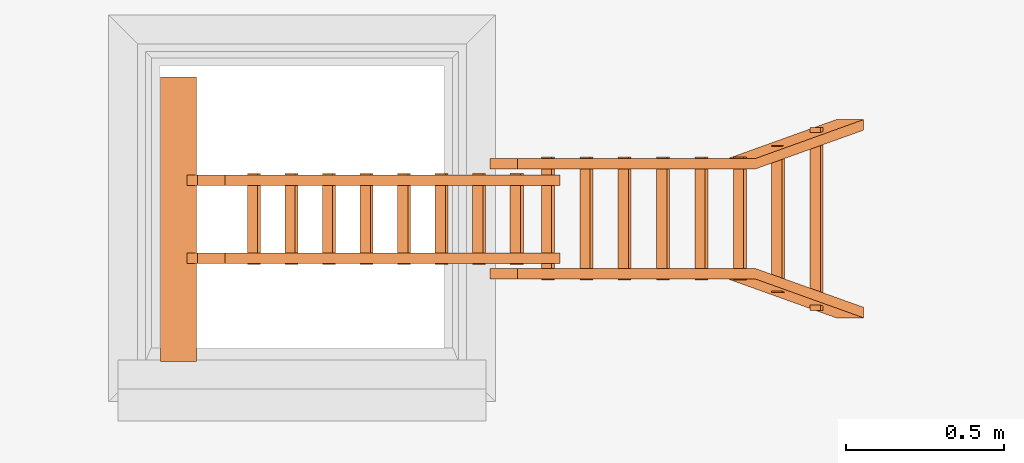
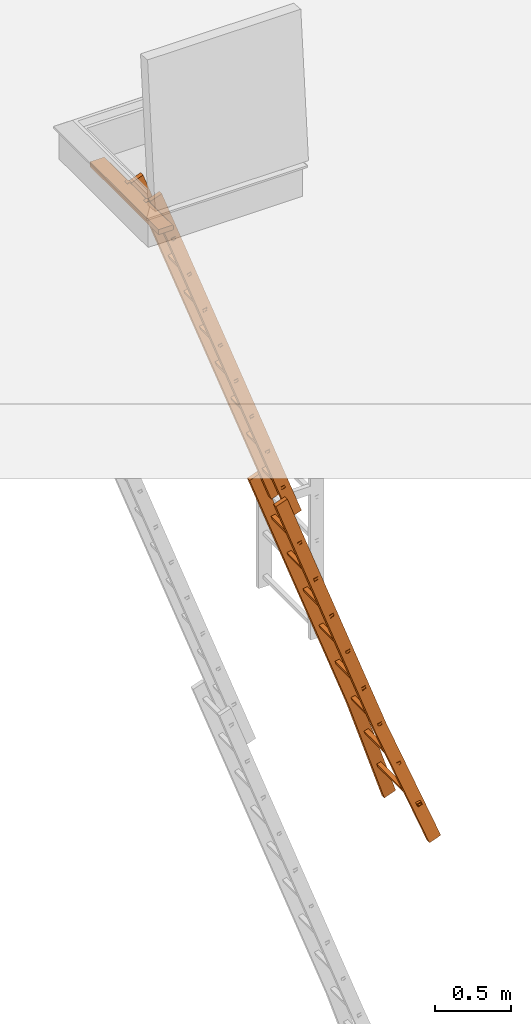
# One storey, part 10 of 28: 1 proxy, 2 openings.
"""IFC2X3 building model written with IfcOpenShell, lengths in millimetres."""

from ifc_helpers import new_model, entity, si_unit, converted_unit, derived_unit, direction, frame, frame_2d, origin, origin_2d_with_axis, place, context, subcontext, project, spatial, polyline, circle_curve, parameter, trimmed, segment, composite_curve, rectangle, outline, extrude, source, transform, mapped, type_object, type_shapes, element, save


model = new_model("IFC2X3")

# Units and contexts
model_context = context("Model", 3, precision=0.01, world=origin(), true_north=direction((6.12303176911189e-17, 1.0)))
body_context = subcontext(model_context, "Body", "Model", "MODEL_VIEW")
ifc_project = project(units=[si_unit("LENGTHUNIT", "METRE", prefix="MILLI"), si_unit("AREAUNIT", "SQUARE_METRE"), si_unit("VOLUMEUNIT", "CUBIC_METRE"), converted_unit("PLANEANGLEUNIT", "DEGREE", entity("IfcRatioMeasure", 0.0174532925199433), si_unit("PLANEANGLEUNIT", "RADIAN"), dimensions=[0, 0, 0, 0, 0, 0, 0]), si_unit("MASSUNIT", "GRAM", prefix="KILO"), derived_unit("MASSDENSITYUNIT", [(si_unit("MASSUNIT", "GRAM", prefix="KILO"), 1), (si_unit("LENGTHUNIT", "METRE"), -3)]), si_unit("TIMEUNIT", "SECOND"), si_unit("FREQUENCYUNIT", "HERTZ"), si_unit("THERMODYNAMICTEMPERATUREUNIT", "DEGREE_CELSIUS"), derived_unit("THERMALTRANSMITTANCEUNIT", [(si_unit("MASSUNIT", "GRAM", prefix="KILO"), 1), (si_unit("THERMODYNAMICTEMPERATUREUNIT", "KELVIN"), -1), (si_unit("TIMEUNIT", "SECOND"), -3)]), derived_unit("VOLUMETRICFLOWRATEUNIT", [(si_unit("LENGTHUNIT", "METRE"), 3), (si_unit("TIMEUNIT", "SECOND"), -1)]), si_unit("ELECTRICCURRENTUNIT", "AMPERE"), si_unit("ELECTRICVOLTAGEUNIT", "VOLT"), si_unit("POWERUNIT", "WATT"), si_unit("FORCEUNIT", "NEWTON", prefix="KILO"), si_unit("ILLUMINANCEUNIT", "LUX"), si_unit("LUMINOUSFLUXUNIT", "LUMEN"), si_unit("LUMINOUSINTENSITYUNIT", "CANDELA"), derived_unit("USERDEFINED", [(si_unit("MASSUNIT", "GRAM", prefix="KILO"), -1), (si_unit("LENGTHUNIT", "METRE"), -2), (si_unit("TIMEUNIT", "SECOND"), 3), (si_unit("LUMINOUSFLUXUNIT", "LUMEN"), 1)]), derived_unit("LINEARVELOCITYUNIT", [(si_unit("LENGTHUNIT", "METRE"), 1), (si_unit("TIMEUNIT", "SECOND"), -1)]), si_unit("PRESSUREUNIT", "PASCAL"), derived_unit("USERDEFINED", [(si_unit("LENGTHUNIT", "METRE"), -2), (si_unit("MASSUNIT", "GRAM", prefix="KILO"), 1), (si_unit("TIMEUNIT", "SECOND"), -2)])], contexts=[model_context])

# Site, building, storey
site_placement = place(None, origin())
site = spatial("IfcSite", under=ifc_project, at=site_placement, Name="Default", CompositionType="ELEMENT")
building_placement = place(site_placement, origin())
building = spatial("IfcBuilding", under=site, at=building_placement, CompositionType="ELEMENT")
storey_placement = place(building_placement, frame((0.0, 0.0, 4000.0)))
storey = spatial("IfcBuildingStorey", under=building, at=storey_placement, Name="Level 2", CompositionType="ELEMENT", Elevation=4000.0)

# Proxy, openings
building_element_proxy_type = type_object("IfcBuildingElementProxyType", Name="9_Topaccess_Trap_2delige1", PredefinedType="NOTDEFINED")
shared_shape = source(origin(), body_context, "Body", "SweptSolid", [
    extrude(outline(composite_curve([segment(polyline([(-20.0, -72.7589570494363), (20.0, -72.7589570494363)]), True, "CONTINUOUS"), segment(polyline([(20.0, -72.7589570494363), (20.0, 31.9980683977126)]), True, "CONTINUOUS"), segment(trimmed(circle_curve(frame_2d((10.2609571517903, 30.9957536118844), x_axis=(0.939692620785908, -0.342020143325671)), 9.79048469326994), [parameter(25.876031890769)], [parameter(105.876031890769)], True, "PARAMETER"), True, "CONTINUOUS"), segment(polyline([(10.9650368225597, 40.760888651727), (-10.9650368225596, 40.760888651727)]), True, "CONTINUOUS"), segment(trimmed(circle_curve(frame_2d((-10.2609571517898, 30.9957536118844), x_axis=(0.939692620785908, -0.342020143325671)), 9.79048469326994), [parameter(114.123968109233)], [parameter(194.123968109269)], True, "PARAMETER"), True, "CONTINUOUS"), segment(polyline([(-20.0, 31.9980683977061), (-20.0, -72.7589570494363)]), True, "CONTINUOUS")], self_intersect=False)), frame((-484.291584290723, -2.37763803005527, 9.64187826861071), z_axis=(1.0, 0.0, 0.0), x_axis=(0.0, 0.939692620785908, 0.34202014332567)), (0.0, 0.0, 1.0), 900.0),
    extrude(outline(composite_curve([segment(polyline([(-21.0941155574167, -85.4663572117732), (-18.0941155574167, -85.4663572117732)]), True, "CONTINUOUS"), segment(polyline([(-18.0941155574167, -85.4663572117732), (-18.0941155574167, 34.533772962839)]), True, "CONTINUOUS"), segment(trimmed(circle_curve(frame_2d((0.281515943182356, 34.5337729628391), x_axis=(0.0, 1.0)), 18.3756315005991), [parameter(284.219953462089)], [parameter(90.0000000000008)], True, "PARAMETER"), False, "CONTINUOUS"), segment(polyline([(18.0941155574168, 39.047654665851), (18.0941155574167, 11.7050015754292)]), True, "CONTINUOUS"), segment(polyline([(18.0941155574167, 11.7050015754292), (21.0941155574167, 11.7050015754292)]), True, "CONTINUOUS"), segment(polyline([(21.0941155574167, 11.7050015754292), (21.0941155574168, 39.4075106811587)]), True, "CONTINUOUS"), segment(trimmed(circle_curve(frame_2d((0.281515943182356, 34.5337729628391), x_axis=(0.0, 1.0)), 21.3756315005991), [parameter(283.179609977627)], [parameter(89.9999999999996)], True, "PARAMETER"), True, "CONTINUOUS"), segment(polyline([(-21.0941155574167, 34.5337729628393), (-21.0941155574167, -85.4663572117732)]), True, "CONTINUOUS")], self_intersect=False)), frame((72.0, -40.2373925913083, 36.9030783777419), z_axis=(1.0, 0.0, 0.0), x_axis=(0.0, 0.0, -1.0)), (0.0, 0.0, 1.0), 33.0),
    extrude(outline(composite_curve([segment(polyline([(-34.5337729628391, -21.0941155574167), (85.4663572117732, -21.0941155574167)]), True, "CONTINUOUS"), segment(polyline([(85.4663572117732, -21.0941155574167), (85.4663572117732, -18.0941155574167)]), True, "CONTINUOUS"), segment(polyline([(85.4663572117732, -18.0941155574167), (-34.5337729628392, -18.0941155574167)]), True, "CONTINUOUS"), segment(trimmed(circle_curve(frame_2d((-34.5337729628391, 0.281515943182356), x_axis=(-1.0, 0.0)), 18.3756315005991), [parameter(284.219953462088)], [parameter(90.0)], True, "PARAMETER"), False, "CONTINUOUS"), segment(polyline([(-39.047654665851, 18.0941155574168), (-11.7050015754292, 18.0941155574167)]), True, "CONTINUOUS"), segment(polyline([(-11.7050015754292, 18.0941155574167), (-11.7050015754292, 21.0941155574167)]), True, "CONTINUOUS"), segment(polyline([(-11.7050015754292, 21.0941155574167), (-39.407510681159, 21.0941155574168)]), True, "CONTINUOUS"), segment(trimmed(circle_curve(frame_2d((-34.5337729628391, 0.281515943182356), x_axis=(-1.0, 0.0)), 21.3756315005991), [parameter(283.179609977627)], [parameter(89.9999999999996)], True, "PARAMETER"), True, "CONTINUOUS")], self_intersect=False)), frame((-175.0, -40.2373925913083, 36.9030783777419), z_axis=(1.0, 0.0, 0.0), x_axis=(0.0, -1.0, 0.0)), (0.0, 0.0, 1.0), 33.0000000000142),
    extrude(rectangle(XDim=33.0000000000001, YDim=3099.99999999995, at=frame_2d((-3.30000000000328, 283.551511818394), x_axis=(1.0, 0.0))), frame((85.2, -1266.44848818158, 58.0), z_axis=(0.0, 0.0, 1.0), x_axis=(-1.0, 0.0, 0.0)), (0.0, 0.0, 1.0), 92.0),
    extrude(rectangle(XDim=3099.99999999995, YDim=33.0000000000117, at=frame_2d((-283.551511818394, 3.30000000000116), x_axis=(1.0, 0.0))), frame((-155.19999999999, -1266.44848818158, 58.0), z_axis=(0.0, 0.0, 1.0), x_axis=(0.0, 1.0, 0.0)), (0.0, 0.0, 1.0), 92.0),
    extrude(outline(polyline([(-11.5216143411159, -16.5000000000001), (13.8405381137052, -16.5000000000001), (13.8405381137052, 16.5), (-16.1594618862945, 16.5000000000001), (-11.5216143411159, -16.5000000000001)]), holes=[polyline([(8.84053811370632, -11.5000000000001), (-7.1751806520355, -11.5000000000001), (-10.4076198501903, 11.5000000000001), (8.84053811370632, 11.5), (8.84053811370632, -11.5000000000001)])]), frame((-227.077291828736, -3293.01909964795, 39.0843884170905), z_axis=(1.0, 0.0, 0.0), x_axis=(0.0, -1.0, 0.0)), (0.0, 0.0, 1.0), 389.077291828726),
    extrude(outline(polyline([(-11.5216143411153, -16.5000000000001), (13.8405381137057, -16.5000000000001), (13.8405381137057, 16.5), (-16.159461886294, 16.5000000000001), (-11.5216143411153, -16.5000000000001)]), holes=[polyline([(8.84053811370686, -11.5000000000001), (-7.17518065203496, -11.5000000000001), (-10.4076198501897, 11.5000000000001), (8.84053811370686, 11.5), (8.84053811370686, -11.5000000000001)])]), frame((-227.077291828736, -3648.01909964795, 39.0843884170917), z_axis=(1.0, 0.0, 0.0), x_axis=(0.0, -1.0, 0.0)), (0.0, 0.0, 1.0), 389.077291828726),
    extrude(outline(polyline([(-11.5216143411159, -16.5000000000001), (13.8405381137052, -16.5000000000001), (13.8405381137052, 16.5), (-16.1594618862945, 16.5000000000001), (-11.5216143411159, -16.5000000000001)]), holes=[polyline([(8.84053811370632, -11.5000000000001), (-7.1751806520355, -11.5000000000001), (-10.4076198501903, 11.5000000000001), (8.84053811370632, 11.5), (8.84053811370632, -11.5000000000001)])]), frame((-227.077291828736, -4003.01909964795, 39.0843884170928), z_axis=(1.0, 0.0, 0.0), x_axis=(0.0, -1.0, 0.0)), (0.0, 0.0, 1.0), 389.077291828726),
    extrude(outline(polyline([(-11.5216143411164, -16.5000000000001), (13.8405381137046, -16.5000000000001), (13.8405381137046, 16.5), (-16.159461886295, 16.5000000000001), (-11.5216143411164, -16.5000000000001)]), holes=[polyline([(8.84053811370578, -11.5000000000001), (-7.17518065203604, -11.5000000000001), (-10.4076198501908, 11.5000000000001), (8.84053811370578, 11.5), (8.84053811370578, -11.5000000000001)])]), frame((-227.077291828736, -4358.01909964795, 39.0843884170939), z_axis=(1.0, 0.0, 0.0), x_axis=(0.0, -1.0, 0.0)), (0.0, 0.0, 1.0), 389.077291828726),
    extrude(outline(polyline([(-11.5216143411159, -16.5000000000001), (13.8405381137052, -16.5000000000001), (13.8405381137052, 16.5), (-16.1594618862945, 16.5000000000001), (-11.5216143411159, -16.5000000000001)]), holes=[polyline([(8.84053811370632, -11.5000000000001), (-7.1751806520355, -11.5000000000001), (-10.4076198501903, 11.5000000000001), (8.84053811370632, 11.5), (8.84053811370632, -11.5000000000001)])]), frame((-227.077291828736, -4713.01909964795, 39.0843884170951), z_axis=(1.0, 0.0, 0.0), x_axis=(0.0, -1.0, 0.0)), (0.0, 0.0, 1.0), 389.077291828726),
    extrude(outline(polyline([(-11.5216143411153, -16.5000000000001), (13.8405381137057, -16.5000000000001), (13.8405381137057, 16.5), (-16.159461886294, 16.5000000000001), (-11.5216143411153, -16.5000000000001)]), holes=[polyline([(8.84053811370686, -11.5000000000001), (-7.17518065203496, -11.5000000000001), (-10.4076198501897, 11.5000000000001), (8.84053811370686, 11.5), (8.84053811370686, -11.5000000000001)])]), frame((-227.077291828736, -5068.01909964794, 39.0843884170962), z_axis=(1.0, 0.0, 0.0), x_axis=(0.0, -1.0, 0.0)), (0.0, 0.0, 1.0), 389.077291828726),
    extrude(outline(polyline([(-11.5216143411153, -16.5000000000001), (13.8405381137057, -16.5000000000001), (13.8405381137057, 16.5), (-16.159461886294, 16.5000000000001), (-11.5216143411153, -16.5000000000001)]), holes=[polyline([(8.84053811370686, -11.5000000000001), (-7.17518065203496, -11.5000000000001), (-10.4076198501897, 11.5000000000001), (8.84053811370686, 11.5), (8.84053811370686, -11.5000000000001)])]), frame((-266.000121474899, -5423.01909964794, 39.0843884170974), z_axis=(1.0, 0.0, 0.0), x_axis=(0.0, -1.0, 0.0)), (0.0, 0.0, 1.0), 465.000121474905),
    extrude(outline(polyline([(-11.5216143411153, -16.5000000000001), (13.8405381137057, -16.5000000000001), (13.8405381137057, 16.5), (-16.159461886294, 16.5000000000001), (-11.5216143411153, -16.5000000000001)]), holes=[polyline([(8.84053811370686, -11.5000000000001), (-7.17518065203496, -11.5000000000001), (-10.4076198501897, 11.5000000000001), (8.84053811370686, 11.5), (8.84053811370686, -11.5000000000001)])]), frame((-323.951711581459, -5778.01909964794, 39.0843884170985), z_axis=(1.0, 0.0, 0.0), x_axis=(0.0, -1.0, 0.0)), (0.0, 0.0, 1.0), 580.345535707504),
    extrude(outline(polyline([(388.026880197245, -105.667736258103), (1398.54073073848, -105.667736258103), (1402.59262124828, -72.6677362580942), (392.048568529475, -72.9137132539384), (-1788.59355619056, 194.835472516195), (-1792.61524452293, 162.081449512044), (388.026880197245, -105.667736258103)])), frame((181.59152386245, -4696.74475844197, -12.0), z_axis=(0.0, 0.0, 1.0), x_axis=(0.121869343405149, -0.992546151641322, 0.0)), (0.0, 0.0, 1.0), 92.0),
    extrude(outline(polyline([(390.379133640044, 72.7087324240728), (1402.92650822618, 72.7087324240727), (1398.87461771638, 105.708732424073), (388.360767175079, 105.708732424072), (-1792.28135754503, -162.040453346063), (-1788.25966921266, -194.794476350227), (390.379133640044, 72.7087324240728)])), frame((-247.591523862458, -4696.40836403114, -12.0), z_axis=(0.0, 0.0, 1.0), x_axis=(-0.121869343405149, -0.992546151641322, 0.0)), (0.0, 0.0, 1.0), 92.0),
    extrude(outline(polyline([(-11.5216143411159, -16.5), (13.8405381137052, -16.5), (13.8405381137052, 16.5), (-16.1594618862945, 16.5000000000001), (-11.5216143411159, -16.5)]), holes=[polyline([(8.84053811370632, -11.5), (-7.17518065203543, -11.5), (-10.4076198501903, 11.5), (8.84053811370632, 11.5), (8.84053811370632, -11.5)])]), frame((-178.583168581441, -401.863211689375, 101.084388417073), z_axis=(1.0, 0.0, 0.0), x_axis=(0.0, -1.0, 0.0)), (0.0, 0.0, 1.0), 288.583168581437),
    extrude(outline(polyline([(-11.5216143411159, -16.5), (13.8405381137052, -16.5), (13.8405381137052, 16.5), (-16.1594618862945, 16.5000000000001), (-11.5216143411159, -16.5)]), holes=[polyline([(8.84053811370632, -11.5), (-7.1751806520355, -11.5), (-10.4076198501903, 11.5000000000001), (8.84053811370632, 11.5), (8.84053811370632, -11.5)])]), frame((-178.583168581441, -749.363211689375, 101.084388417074), z_axis=(1.0, 0.0, 0.0), x_axis=(0.0, -1.0, 0.0)), (0.0, 0.0, 1.0), 288.583168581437),
    extrude(outline(polyline([(-11.5216143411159, -16.5), (13.8405381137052, -16.5), (13.8405381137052, 16.5), (-16.1594618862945, 16.5000000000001), (-11.5216143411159, -16.5)]), holes=[polyline([(8.84053811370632, -11.5), (-7.1751806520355, -11.5), (-10.4076198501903, 11.5), (8.84053811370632, 11.5), (8.84053811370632, -11.5)])]), frame((-178.583168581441, -1096.86321168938, 101.084388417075), z_axis=(1.0, 0.0, 0.0), x_axis=(0.0, -1.0, 0.0)), (0.0, 0.0, 1.0), 288.583168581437),
    extrude(outline(polyline([(-11.5216143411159, -16.5), (13.8405381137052, -16.5), (13.8405381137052, 16.5), (-16.1594618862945, 16.5000000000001), (-11.5216143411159, -16.5)]), holes=[polyline([(8.84053811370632, -11.5), (-7.1751806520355, -11.5), (-10.4076198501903, 11.5000000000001), (8.84053811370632, 11.5), (8.84053811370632, -11.5)])]), frame((-178.583168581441, -1444.36321168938, 101.084388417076), z_axis=(1.0, 0.0, 0.0), x_axis=(0.0, -1.0, 0.0)), (0.0, 0.0, 1.0), 288.583168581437),
    extrude(outline(polyline([(-11.5216143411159, -16.5), (13.8405381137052, -16.5), (13.8405381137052, 16.5), (-16.1594618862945, 16.5000000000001), (-11.5216143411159, -16.5)]), holes=[polyline([(8.84053811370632, -11.5), (-7.1751806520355, -11.5), (-10.4076198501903, 11.5000000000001), (8.84053811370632, 11.5), (8.84053811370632, -11.5)])]), frame((-178.583168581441, -1791.86321168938, 101.084388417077), z_axis=(1.0, 0.0, 0.0), x_axis=(0.0, -1.0, 0.0)), (0.0, 0.0, 1.0), 288.583168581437),
    extrude(outline(polyline([(-11.5216143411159, -16.5), (13.8405381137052, -16.5), (13.8405381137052, 16.5), (-16.1594618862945, 16.5000000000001), (-11.5216143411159, -16.5)]), holes=[polyline([(8.84053811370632, -11.5), (-7.1751806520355, -11.5), (-10.4076198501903, 11.5000000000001), (8.84053811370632, 11.5), (8.84053811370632, -11.5)])]), frame((-178.583168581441, -2139.36321168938, 101.084388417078), z_axis=(1.0, 0.0, 0.0), x_axis=(0.0, -1.0, 0.0)), (0.0, 0.0, 1.0), 288.583168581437),
    extrude(outline(polyline([(-11.5216143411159, -16.5), (13.8405381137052, -16.5), (13.8405381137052, 16.5), (-16.1594618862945, 16.5000000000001), (-11.5216143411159, -16.5)]), holes=[polyline([(8.84053811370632, -11.5), (-7.1751806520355, -11.5), (-10.4076198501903, 11.5), (8.84053811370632, 11.5), (8.84053811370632, -11.5)])]), frame((-178.583168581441, -2486.86321168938, 101.084388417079), z_axis=(1.0, 0.0, 0.0), x_axis=(0.0, -1.0, 0.0)), (0.0, 0.0, 1.0), 288.583168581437),
    extrude(outline(polyline([(-11.5216143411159, -16.5), (13.8405381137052, -16.5), (13.8405381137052, 16.5), (-16.1594618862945, 16.5000000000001), (-11.5216143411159, -16.5)]), holes=[polyline([(8.84053811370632, -11.5), (-7.1751806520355, -11.5), (-10.4076198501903, 11.5000000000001), (8.84053811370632, 11.5), (8.84053811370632, -11.5)])]), frame((-178.583168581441, -2834.36321168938, 101.08438841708), z_axis=(1.0, 0.0, 0.0), x_axis=(0.0, -1.0, 0.0)), (0.0, 0.0, 1.0), 288.583168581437),
])
type_shapes(building_element_proxy_type, [shared_shape])
proxy_placement = place(storey_placement, frame((7369.96174264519, 5873.76438888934, 411.357021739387), z_axis=(0.939692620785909, 0.0, 0.342020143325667), x_axis=(0.0, 1.0, 0.0)))
proxy = element("IfcBuildingElementProxy", 1, at=proxy_placement, inside=storey, type_object=building_element_proxy_type, Name="9_Topaccess_Trap_2delige1:9_Topaccess_Trap_2delige1", ObjectType="9_Topaccess_Trap_2delige1", context=body_context, shape_type="MappedRepresentation", body=[
    mapped(shared_shape, transform((0.0, 0.0, 0.0), scale=1.0)),
])
opening_1_placement = place(storey_placement, frame((7369.96174264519, 5873.76438888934, 4411.35702173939), z_axis=(0.321393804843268, 0.939692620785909, 0.11697777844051), x_axis=(-0.342020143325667, 0.0, 0.939692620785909)))
element("IfcOpeningElement", 2, at=opening_1_placement, cuts=proxy, Name="9_Topaccess_Trap_2delige1:9_Topaccess_Trap_2delige1:1", ObjectType="Opening", context=body_context, shape_type="SweptSolid", body=[
    extrude(rectangle(XDim=42.5298592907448, YDim=59.0000000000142, at=frame_2d((5.32907051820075e-15, 0.0), x_axis=(1.0, 0.0))), frame((16.8366086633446, -3690.15737979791, -1511.77962294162), z_axis=(-0.939692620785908, -0.321393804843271, -0.116977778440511), x_axis=(-0.34202014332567, 0.883022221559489, 0.321393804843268)), (0.0, 0.0, 1.0), 40.0),
])
opening_2_placement = place(storey_placement, frame((7369.96174264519, 5873.76438888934, 4411.35702173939), z_axis=(0.321393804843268, 0.939692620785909, 0.11697777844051), x_axis=(-0.342020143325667, 0.0, 0.939692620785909)))
element("IfcOpeningElement", 3, at=opening_2_placement, cuts=proxy, Name="9_Topaccess_Trap_2delige1:9_Topaccess_Trap_2delige1:2", ObjectType="Opening", context=body_context, shape_type="SweptSolid", body=[
    extrude(rectangle(XDim=42.5298592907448, YDim=59.0000000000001, at=origin_2d_with_axis()), frame((16.8366086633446, -3774.63635519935, -1279.6755456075), z_axis=(-0.939692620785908, -0.321393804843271, -0.116977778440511), x_axis=(-0.34202014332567, 0.883022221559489, 0.321393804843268)), (0.0, 0.0, 1.0), 40.0),
])

save(model, "model.ifc")
